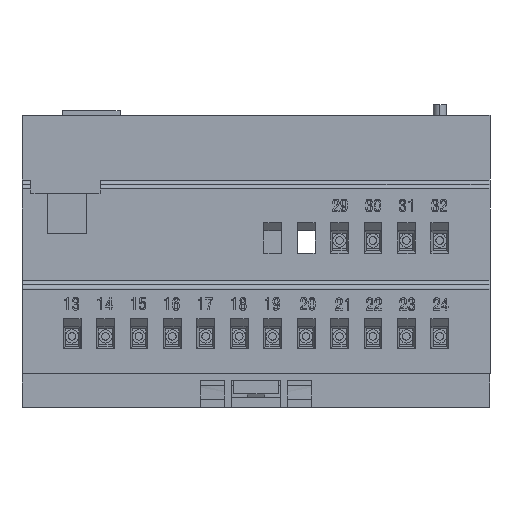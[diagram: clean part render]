
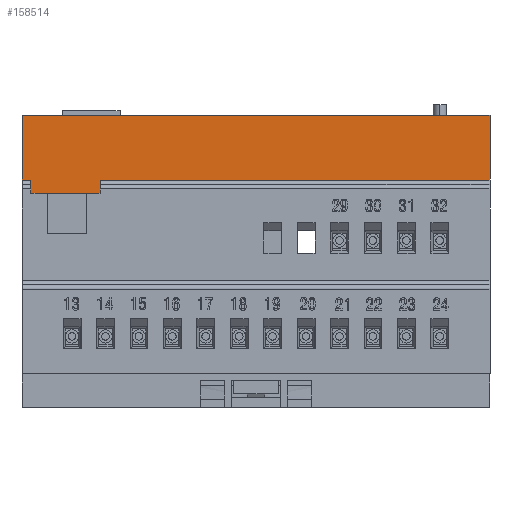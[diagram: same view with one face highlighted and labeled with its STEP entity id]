
A CAD part, front view. The second image highlights one B-rep face of the part: STEP entity #158514.
In plain terms, the highlighted planar face has unit normal (0, -1, 0) as drawn and (1, 0, 0) by its records, which use the part's own axes.
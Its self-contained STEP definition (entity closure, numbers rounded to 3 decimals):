
#1069 = DIRECTION ( 'NONE',  ( 0., 1., 0. ) ) ;
#2848 = CARTESIAN_POINT ( 'NONE',  ( 67.5, 43.5, -2. ) ) ;
#2896 = DIRECTION ( 'NONE',  ( 0., 1., 0. ) ) ;
#13291 = EDGE_CURVE ( 'NONE', #50238, #213544, #209070, .T. ) ;
#16862 = CARTESIAN_POINT ( 'NONE',  ( 67.5, 43.5, 0. ) ) ;
#27286 = VECTOR ( 'NONE', #127668, 1000. ) ;
#36354 = ORIENTED_EDGE ( 'NONE', *, *, #44806, .T. ) ;
#36658 = CARTESIAN_POINT ( 'NONE',  ( 67.5, 40.5, -2. ) ) ;
#44806 = EDGE_CURVE ( 'NONE', #176357, #156828, #193321, .T. ) ;
#46241 = EDGE_CURVE ( 'NONE', #76866, #59813, #93638, .T. ) ;
#49888 = DIRECTION ( 'NONE',  ( 0., 0., 1. ) ) ;
#50238 = VERTEX_POINT ( 'NONE', #101275 ) ;
#53002 = VERTEX_POINT ( 'NONE', #36658 ) ;
#59813 = VERTEX_POINT ( 'NONE', #16862 ) ;
#65800 = CARTESIAN_POINT ( 'NONE',  ( 67.5, 43.5, -105. ) ) ;
#66495 = ORIENTED_EDGE ( 'NONE', *, *, #92495, .T. ) ;
#66612 = CARTESIAN_POINT ( 'NONE',  ( 67.5, 44.5, -2. ) ) ;
#68734 = PLANE ( 'NONE',  #168027 ) ;
#69279 = LINE ( 'NONE', #66612, #108039 ) ;
#72983 = VERTEX_POINT ( 'NONE', #137298 ) ;
#74422 = DIRECTION ( 'NONE',  ( 0., 0., 1. ) ) ;
#75556 = ORIENTED_EDGE ( 'NONE', *, *, #187412, .T. ) ;
#76866 = VERTEX_POINT ( 'NONE', #2848 ) ;
#81150 = DIRECTION ( 'NONE',  ( 0., 0., 1. ) ) ;
#83668 = CARTESIAN_POINT ( 'NONE',  ( 67.5, 43.5, -17.5 ) ) ;
#85320 = CARTESIAN_POINT ( 'NONE',  ( 67.5, 58., -105. ) ) ;
#85549 = CARTESIAN_POINT ( 'NONE',  ( 67.5, 58., -105. ) ) ;
#92495 = EDGE_CURVE ( 'NONE', #50238, #176357, #203105, .T. ) ;
#92576 = LINE ( 'NONE', #180091, #180471 ) ;
#93638 = LINE ( 'NONE', #65800, #153175 ) ;
#94036 = EDGE_CURVE ( 'NONE', #213544, #72983, #142870, .T. ) ;
#98922 = VECTOR ( 'NONE', #180373, 1000. ) ;
#100121 = CARTESIAN_POINT ( 'NONE',  ( 67.5, 58., 0. ) ) ;
#101275 = CARTESIAN_POINT ( 'NONE',  ( 67.5, 43.5, -105. ) ) ;
#101962 = DIRECTION ( 'NONE',  ( 1., 0., 0. ) ) ;
#106700 = LINE ( 'NONE', #100121, #194499 ) ;
#108039 = VECTOR ( 'NONE', #200220, 1000. ) ;
#114303 = EDGE_CURVE ( 'NONE', #59813, #156828, #106700, .T. ) ;
#116477 = EDGE_LOOP ( 'NONE', ( #206558, #167707, #66495, #36354, #150030, #135368, #75556, #128192 ) ) ;
#119233 = CARTESIAN_POINT ( 'NONE',  ( 67.5, 58., 0. ) ) ;
#121219 = VECTOR ( 'NONE', #74422, 1000. ) ;
#122288 = FACE_OUTER_BOUND ( 'NONE', #116477, .T. ) ;
#127668 = DIRECTION ( 'NONE',  ( 0., 1., 0. ) ) ;
#128192 = ORIENTED_EDGE ( 'NONE', *, *, #167858, .F. ) ;
#135368 = ORIENTED_EDGE ( 'NONE', *, *, #46241, .F. ) ;
#137298 = CARTESIAN_POINT ( 'NONE',  ( 67.5, 40.5, -17.5 ) ) ;
#142870 = LINE ( 'NONE', #163784, #98922 ) ;
#150030 = ORIENTED_EDGE ( 'NONE', *, *, #114303, .F. ) ;
#153175 = VECTOR ( 'NONE', #49888, 1000. ) ;
#156828 = VERTEX_POINT ( 'NONE', #119233 ) ;
#158514 = ADVANCED_FACE ( 'NONE', ( #122288 ), #68734, .T. ) ;
#163784 = CARTESIAN_POINT ( 'NONE',  ( 67.5, 44.5, -17.5 ) ) ;
#167707 = ORIENTED_EDGE ( 'NONE', *, *, #13291, .F. ) ;
#167858 = EDGE_CURVE ( 'NONE', #72983, #53002, #92576, .T. ) ;
#168027 = AXIS2_PLACEMENT_3D ( 'NONE', #85320, #101962, #2896 ) ;
#173335 = CARTESIAN_POINT ( 'NONE',  ( 67.5, 43.5, -105. ) ) ;
#176357 = VERTEX_POINT ( 'NONE', #186094 ) ;
#180091 = CARTESIAN_POINT ( 'NONE',  ( 67.5, 40.5, -2. ) ) ;
#180373 = DIRECTION ( 'NONE',  ( 0., -1., 0. ) ) ;
#180471 = VECTOR ( 'NONE', #81150, 1000. ) ;
#184493 = DIRECTION ( 'NONE',  ( 0., 0., 1. ) ) ;
#186094 = CARTESIAN_POINT ( 'NONE',  ( 67.5, 58., -105. ) ) ;
#187412 = EDGE_CURVE ( 'NONE', #76866, #53002, #69279, .T. ) ;
#188165 = VECTOR ( 'NONE', #184493, 1000. ) ;
#193321 = LINE ( 'NONE', #85549, #188165 ) ;
#194499 = VECTOR ( 'NONE', #1069, 1000. ) ;
#200220 = DIRECTION ( 'NONE',  ( 0., -1., 0. ) ) ;
#203105 = LINE ( 'NONE', #209991, #27286 ) ;
#206558 = ORIENTED_EDGE ( 'NONE', *, *, #94036, .F. ) ;
#209070 = LINE ( 'NONE', #173335, #121219 ) ;
#209991 = CARTESIAN_POINT ( 'NONE',  ( 67.5, 58., -105. ) ) ;
#213544 = VERTEX_POINT ( 'NONE', #83668 ) ;
